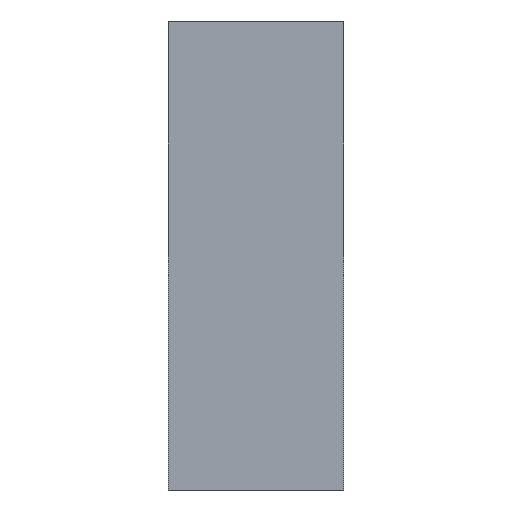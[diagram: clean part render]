
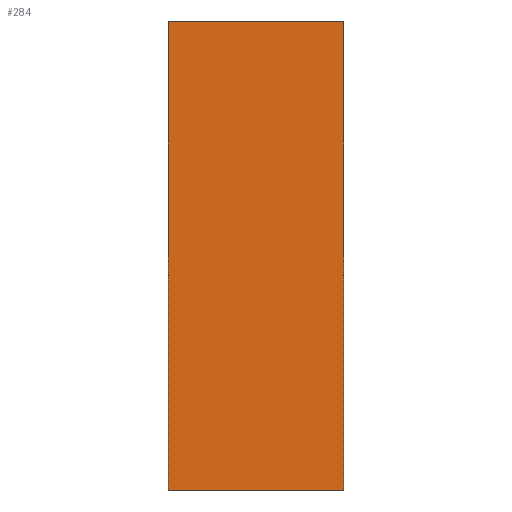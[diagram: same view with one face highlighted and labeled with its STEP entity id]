
A CAD part, left-side view. The second image highlights one B-rep face of the part: STEP entity #284.
In plain terms, the highlighted planar face has unit normal (-1, 0, 0).
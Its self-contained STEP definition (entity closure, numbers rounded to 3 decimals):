
#21 = EDGE_CURVE('',#22,#24,#26,.T.);
#22 = VERTEX_POINT('',#23);
#23 = CARTESIAN_POINT('',(-24.5,-107.89,183.));
#24 = VERTEX_POINT('',#25);
#25 = CARTESIAN_POINT('',(-24.5,-107.89,191.));
#26 = SURFACE_CURVE('',#27,(#31,#43),.PCURVE_S1.);
#27 = LINE('',#28,#29);
#28 = CARTESIAN_POINT('',(-24.5,-107.89,183.));
#29 = VECTOR('',#30,1.);
#30 = DIRECTION('',(0.,0.,1.));
#31 = PCURVE('',#32,#37);
#32 = PLANE('',#33);
#33 = AXIS2_PLACEMENT_3D('',#34,#35,#36);
#34 = CARTESIAN_POINT('',(-24.5,-107.89,183.));
#35 = DIRECTION('',(0.,1.,0.));
#36 = DIRECTION('',(1.,0.,0.));
#37 = DEFINITIONAL_REPRESENTATION('',(#38),#42);
#38 = LINE('',#39,#40);
#39 = CARTESIAN_POINT('',(0.,0.));
#40 = VECTOR('',#41,1.);
#41 = DIRECTION('',(0.,-1.));
#42 = ( GEOMETRIC_REPRESENTATION_CONTEXT(2) 
PARAMETRIC_REPRESENTATION_CONTEXT() REPRESENTATION_CONTEXT('2D SPACE',''
  ) );
#43 = PCURVE('',#44,#49);
#44 = PLANE('',#45);
#45 = AXIS2_PLACEMENT_3D('',#46,#47,#48);
#46 = CARTESIAN_POINT('',(-24.5,-104.89,183.));
#47 = DIRECTION('',(1.,0.,-0.));
#48 = DIRECTION('',(0.,-1.,0.));
#49 = DEFINITIONAL_REPRESENTATION('',(#50),#54);
#50 = LINE('',#51,#52);
#51 = CARTESIAN_POINT('',(3.,0.));
#52 = VECTOR('',#53,1.);
#53 = DIRECTION('',(0.,-1.));
#54 = ( GEOMETRIC_REPRESENTATION_CONTEXT(2) 
PARAMETRIC_REPRESENTATION_CONTEXT() REPRESENTATION_CONTEXT('2D SPACE',''
  ) );
#72 = PLANE('',#73);
#73 = AXIS2_PLACEMENT_3D('',#74,#75,#76);
#74 = CARTESIAN_POINT('',(0.,-106.39,191.));
#75 = DIRECTION('',(0.,0.,1.));
#76 = DIRECTION('',(1.,0.,-0.));
#126 = PLANE('',#127);
#127 = AXIS2_PLACEMENT_3D('',#128,#129,#130);
#128 = CARTESIAN_POINT('',(0.,-106.39,183.));
#129 = DIRECTION('',(0.,0.,1.));
#130 = DIRECTION('',(1.,0.,-0.));
#181 = PLANE('',#182);
#182 = AXIS2_PLACEMENT_3D('',#183,#184,#185);
#183 = CARTESIAN_POINT('',(24.5,-104.89,183.));
#184 = DIRECTION('',(0.,-1.,0.));
#185 = DIRECTION('',(-1.,0.,0.));
#219 = VERTEX_POINT('',#220);
#220 = CARTESIAN_POINT('',(-24.5,-104.89,191.));
#241 = EDGE_CURVE('',#242,#219,#244,.T.);
#242 = VERTEX_POINT('',#243);
#243 = CARTESIAN_POINT('',(-24.5,-104.89,183.));
#244 = SURFACE_CURVE('',#245,(#249,#256),.PCURVE_S1.);
#245 = LINE('',#246,#247);
#246 = CARTESIAN_POINT('',(-24.5,-104.89,183.));
#247 = VECTOR('',#248,1.);
#248 = DIRECTION('',(0.,0.,1.));
#249 = PCURVE('',#181,#250);
#250 = DEFINITIONAL_REPRESENTATION('',(#251),#255);
#251 = LINE('',#252,#253);
#252 = CARTESIAN_POINT('',(49.,0.));
#253 = VECTOR('',#254,1.);
#254 = DIRECTION('',(0.,-1.));
#255 = ( GEOMETRIC_REPRESENTATION_CONTEXT(2) 
PARAMETRIC_REPRESENTATION_CONTEXT() REPRESENTATION_CONTEXT('2D SPACE',''
  ) );
#256 = PCURVE('',#44,#257);
#257 = DEFINITIONAL_REPRESENTATION('',(#258),#262);
#258 = LINE('',#259,#260);
#259 = CARTESIAN_POINT('',(0.,0.));
#260 = VECTOR('',#261,1.);
#261 = DIRECTION('',(0.,-1.));
#262 = ( GEOMETRIC_REPRESENTATION_CONTEXT(2) 
PARAMETRIC_REPRESENTATION_CONTEXT() REPRESENTATION_CONTEXT('2D SPACE',''
  ) );
#284 = ADVANCED_FACE('',(#285),#44,.F.);
#285 = FACE_BOUND('',#286,.F.);
#286 = EDGE_LOOP('',(#287,#288,#309,#310));
#287 = ORIENTED_EDGE('',*,*,#241,.T.);
#288 = ORIENTED_EDGE('',*,*,#289,.T.);
#289 = EDGE_CURVE('',#219,#24,#290,.T.);
#290 = SURFACE_CURVE('',#291,(#295,#302),.PCURVE_S1.);
#291 = LINE('',#292,#293);
#292 = CARTESIAN_POINT('',(-24.5,-104.89,191.));
#293 = VECTOR('',#294,1.);
#294 = DIRECTION('',(0.,-1.,0.));
#295 = PCURVE('',#44,#296);
#296 = DEFINITIONAL_REPRESENTATION('',(#297),#301);
#297 = LINE('',#298,#299);
#298 = CARTESIAN_POINT('',(0.,-8.));
#299 = VECTOR('',#300,1.);
#300 = DIRECTION('',(1.,0.));
#301 = ( GEOMETRIC_REPRESENTATION_CONTEXT(2) 
PARAMETRIC_REPRESENTATION_CONTEXT() REPRESENTATION_CONTEXT('2D SPACE',''
  ) );
#302 = PCURVE('',#72,#303);
#303 = DEFINITIONAL_REPRESENTATION('',(#304),#308);
#304 = LINE('',#305,#306);
#305 = CARTESIAN_POINT('',(-24.5,1.5));
#306 = VECTOR('',#307,1.);
#307 = DIRECTION('',(0.,-1.));
#308 = ( GEOMETRIC_REPRESENTATION_CONTEXT(2) 
PARAMETRIC_REPRESENTATION_CONTEXT() REPRESENTATION_CONTEXT('2D SPACE',''
  ) );
#309 = ORIENTED_EDGE('',*,*,#21,.F.);
#310 = ORIENTED_EDGE('',*,*,#311,.F.);
#311 = EDGE_CURVE('',#242,#22,#312,.T.);
#312 = SURFACE_CURVE('',#313,(#317,#324),.PCURVE_S1.);
#313 = LINE('',#314,#315);
#314 = CARTESIAN_POINT('',(-24.5,-104.89,183.));
#315 = VECTOR('',#316,1.);
#316 = DIRECTION('',(0.,-1.,0.));
#317 = PCURVE('',#44,#318);
#318 = DEFINITIONAL_REPRESENTATION('',(#319),#323);
#319 = LINE('',#320,#321);
#320 = CARTESIAN_POINT('',(0.,0.));
#321 = VECTOR('',#322,1.);
#322 = DIRECTION('',(1.,0.));
#323 = ( GEOMETRIC_REPRESENTATION_CONTEXT(2) 
PARAMETRIC_REPRESENTATION_CONTEXT() REPRESENTATION_CONTEXT('2D SPACE',''
  ) );
#324 = PCURVE('',#126,#325);
#325 = DEFINITIONAL_REPRESENTATION('',(#326),#330);
#326 = LINE('',#327,#328);
#327 = CARTESIAN_POINT('',(-24.5,1.5));
#328 = VECTOR('',#329,1.);
#329 = DIRECTION('',(0.,-1.));
#330 = ( GEOMETRIC_REPRESENTATION_CONTEXT(2) 
PARAMETRIC_REPRESENTATION_CONTEXT() REPRESENTATION_CONTEXT('2D SPACE',''
  ) );
